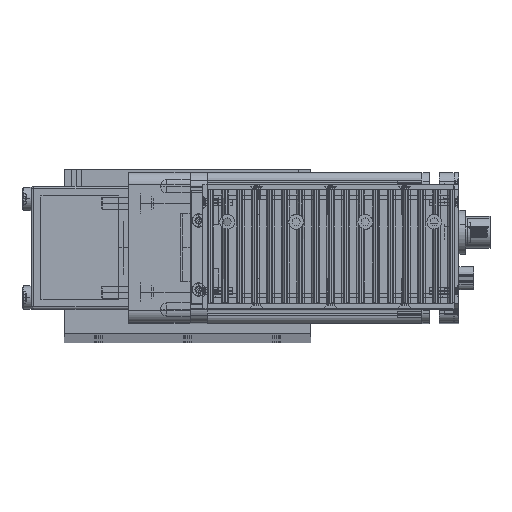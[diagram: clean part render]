
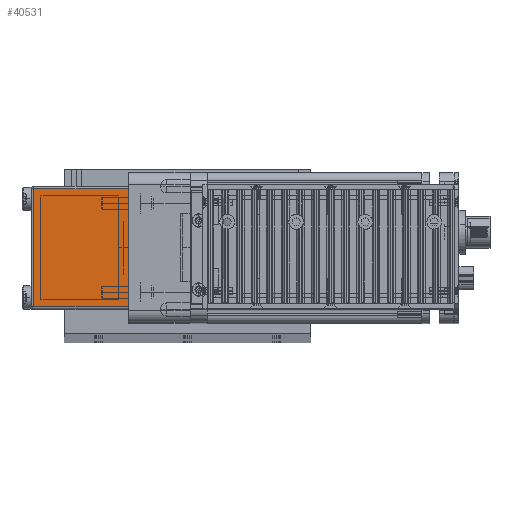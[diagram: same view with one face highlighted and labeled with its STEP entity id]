
A CAD part, top view. The second image highlights one B-rep face of the part: STEP entity #40531.
In plain terms, the highlighted planar face has unit normal (0, 0, 1) as drawn and (1, 0, 0) by its records, which use the part's own axes.
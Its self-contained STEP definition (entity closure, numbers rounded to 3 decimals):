
#20251 = CARTESIAN_POINT ( 'NONE',  ( 62., 24., 0. ) ) ;
#20349 = LINE ( 'NONE', #20412, #20411 ) ;
#20364 = CARTESIAN_POINT ( 'NONE',  ( 62., 24., 38.5 ) ) ;
#20381 = CARTESIAN_POINT ( 'NONE',  ( 62., -24., 0. ) ) ;
#20405 = DIRECTION ( 'NONE',  ( 0., 0., -1. ) ) ;
#20406 = CARTESIAN_POINT ( 'NONE',  ( 62., -24., 38.5 ) ) ;
#20411 = VECTOR ( 'NONE', #20405, 1000. ) ;
#20412 = CARTESIAN_POINT ( 'NONE',  ( 62., 24., 39.5 ) ) ;
#20527 = DIRECTION ( 'NONE',  ( 0., 0., 1. ) ) ;
#20528 = VECTOR ( 'NONE', #20527, 1000. ) ;
#20531 = CARTESIAN_POINT ( 'NONE',  ( 62., -24., 39.5 ) ) ;
#20532 = LINE ( 'NONE', #20531, #20528 ) ;
#37523 = VERTEX_POINT ( 'NONE', #20251 ) ;
#37580 = VERTEX_POINT ( 'NONE', #20381 ) ;
#37583 = VERTEX_POINT ( 'NONE', #20364 ) ;
#37587 = EDGE_CURVE ( 'NONE', #37583, #37523, #20349, .T. ) ;
#37588 = VERTEX_POINT ( 'NONE', #20406 ) ;
#37671 = EDGE_CURVE ( 'NONE', #37580, #37588, #20532, .T. ) ;
#39295 = ORIENTED_EDGE ( 'NONE', *, *, #37671, .F. ) ;
#39334 = ORIENTED_EDGE ( 'NONE', *, *, #37587, .F. ) ;
#39339 = EDGE_LOOP ( 'NONE', ( #39295, #40519, #39334, #39348 ) ) ;
#39348 = ORIENTED_EDGE ( 'NONE', *, *, #39350, .F. ) ;
#39350 = EDGE_CURVE ( 'NONE', #37588, #37583, #42283, .T. ) ;
#39414 = EDGE_CURVE ( 'NONE', #37580, #37523, #42382, .T. ) ;
#40519 = ORIENTED_EDGE ( 'NONE', *, *, #39414, .T. ) ;
#40531 = ADVANCED_FACE ( 'NONE', ( #44651 ), #44598, .F. ) ;
#42271 = VECTOR ( 'NONE', #42284, 1000. ) ;
#42283 = LINE ( 'NONE', #42285, #42271 ) ;
#42284 = DIRECTION ( 'NONE',  ( 0., 1., 0. ) ) ;
#42285 = CARTESIAN_POINT ( 'NONE',  ( 62., -25., 38.5 ) ) ;
#42371 = DIRECTION ( 'NONE',  ( 0., 1., 0. ) ) ;
#42372 = VECTOR ( 'NONE', #42371, 1000. ) ;
#42381 = CARTESIAN_POINT ( 'NONE',  ( 62., -25., 0. ) ) ;
#42382 = LINE ( 'NONE', #42381, #42372 ) ;
#44598 = PLANE ( 'NONE',  #44601 ) ;
#44601 = AXIS2_PLACEMENT_3D ( 'NONE', #44656, #44646, #44645 ) ;
#44645 = DIRECTION ( 'NONE',  ( 0., -1., 0. ) ) ;
#44646 = DIRECTION ( 'NONE',  ( -1., 0., 0. ) ) ;
#44651 = FACE_OUTER_BOUND ( 'NONE', #39339, .T. ) ;
#44656 = CARTESIAN_POINT ( 'NONE',  ( 62., 25., 39.5 ) ) ;
